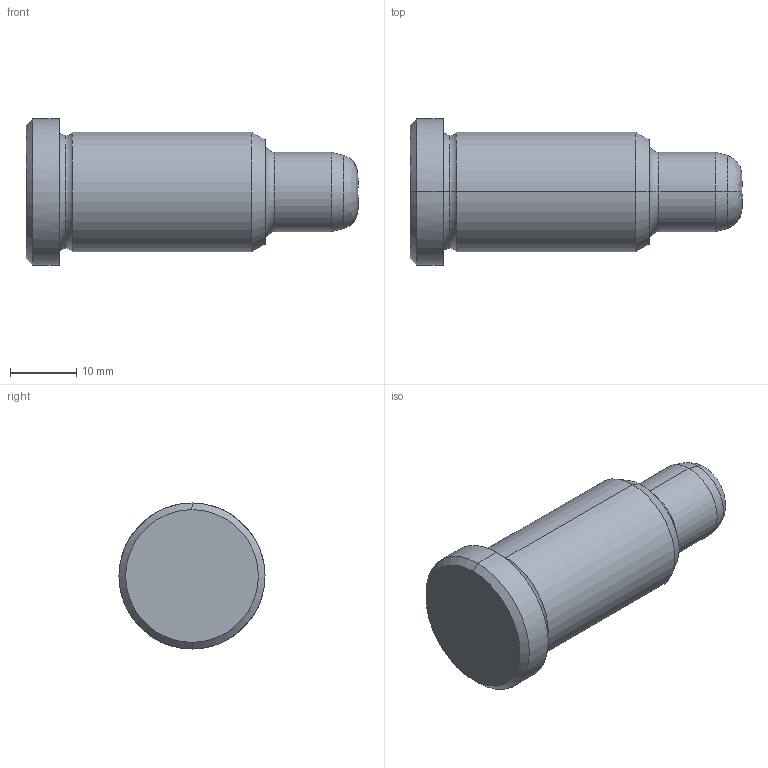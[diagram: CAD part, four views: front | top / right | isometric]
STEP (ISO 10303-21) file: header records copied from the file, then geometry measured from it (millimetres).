
FILE_DESCRIPTION(('CATIA V5 STEP Exchange'),'2;1');
FILE_NAME('C:\Users\Utente\Desktop\IO LAVORO\3D X SITO CF\X SITO\PLASTICA\351\351-12X36X50.stp','2021-08-17T12:31:43+00:00',('none'),('none'),'CATIA Version 5 Release 20 GA (IN-10)','CATIA V5 STEP AP203','none');
FILE_SCHEMA(('CONFIG_CONTROL_DESIGN'));
Length unit declared in the file: millimetre
Products named in the file (1): 351-12X36X50
Bounding box: 50 x 22 x 22 mm (x, y, z)
Volume: 11152.1 mm3; surface area: 3213.9 mm2
Topology: 1 solids, 1 shells, 24 faces, 70 edges, 50 vertices
Faces by surface type: cone 6, cylinder 6, torus 6, plane 4, bspline 2
Entity records: 948 total; most frequent: CARTESIAN_POINT 311, ORIENTED_EDGE 140, DIRECTION 96, EDGE_CURVE 70, AXIS2_PLACEMENT_3D 63, VERTEX_POINT 50, CIRCLE 40, EDGE_LOOP 26
